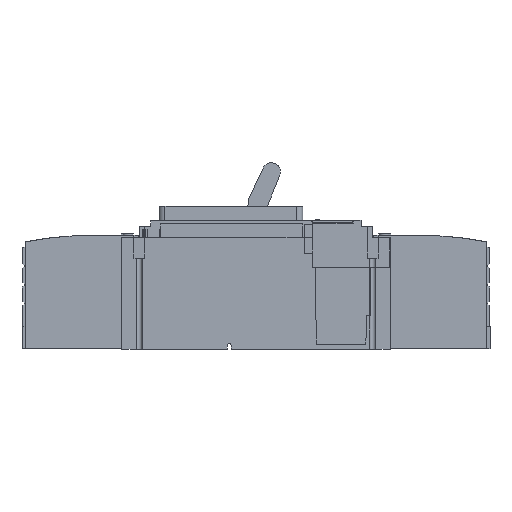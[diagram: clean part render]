
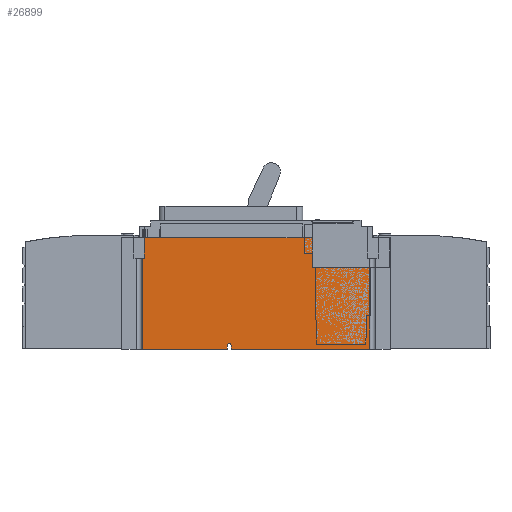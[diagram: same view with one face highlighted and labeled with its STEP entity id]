
A CAD part, left-side view. The second image highlights one B-rep face of the part: STEP entity #26899.
In plain terms, the highlighted planar face has unit normal (-1, 0, 0).
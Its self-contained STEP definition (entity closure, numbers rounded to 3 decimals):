
#86=DIRECTION('',(0.,1.,0.));
#87=VECTOR('',#86,1.954);
#88=CARTESIAN_POINT('',(0.,246.866,-40.707));
#89=LINE('',#88,#87);
#93=DIRECTION('',(0.,0.,1.));
#94=VECTOR('',#93,17.5);
#95=CARTESIAN_POINT('',(0.,246.866,-40.707));
#96=LINE('',#95,#94);
#100=DIRECTION('',(0.,-1.,0.));
#101=VECTOR('',#100,13.5);
#102=CARTESIAN_POINT('',(0.,246.866,-23.207));
#103=LINE('',#102,#101);
#107=DIRECTION('',(0.,0.,1.));
#108=VECTOR('',#107,11.8);
#109=CARTESIAN_POINT('',(0.,233.366,-23.207));
#110=LINE('',#109,#108);
#114=DIRECTION('',(0.,-1.,0.));
#115=VECTOR('',#114,122.);
#116=CARTESIAN_POINT('',(0.,233.366,-11.407));
#117=LINE('',#116,#115);
#121=DIRECTION('',(0.,0.,-1.));
#122=VECTOR('',#121,11.8);
#123=CARTESIAN_POINT('',(0.,111.366,-11.407));
#124=LINE('',#123,#122);
#128=DIRECTION('',(0.,-1.,0.));
#129=VECTOR('',#128,8.);
#130=CARTESIAN_POINT('',(0.,111.366,-23.207));
#131=LINE('',#130,#129);
#135=DIRECTION('',(0.,0.,-1.));
#136=VECTOR('',#135,25.5);
#137=CARTESIAN_POINT('',(0.,103.366,-23.207));
#138=LINE('',#137,#136);
#142=DIRECTION('',(0.,-1.,0.));
#143=VECTOR('',#142,49.454);
#144=CARTESIAN_POINT('',(0.,103.366,-48.707));
#145=LINE('',#144,#143);
#149=DIRECTION('',(0.,0.,-1.));
#150=VECTOR('',#149,70.);
#151=CARTESIAN_POINT('',(0.,53.912,-48.707));
#152=LINE('',#151,#150);
#156=DIRECTION('',(0.,1.,0.));
#157=VECTOR('',#156,118.704);
#158=CARTESIAN_POINT('',(0.,53.912,-118.707));
#159=LINE('',#158,#157);
#163=DIRECTION('',(0.,0.,1.));
#164=VECTOR('',#163,2.918);
#165=CARTESIAN_POINT('',(0.,172.616,-118.707));
#166=LINE('',#165,#164);
#170=DIRECTION('',(0.,0.,-1.));
#171=VECTOR('',#170,2.918);
#172=CARTESIAN_POINT('',(0.,176.116,-115.789));
#173=LINE('',#172,#171);
#177=DIRECTION('',(0.,1.,0.));
#178=VECTOR('',#177,72.704);
#179=CARTESIAN_POINT('',(0.,176.116,-118.707));
#180=LINE('',#179,#178);
#184=DIRECTION('',(0.,0.,-1.));
#185=VECTOR('',#184,78.);
#186=CARTESIAN_POINT('',(0.,248.821,-40.707));
#187=LINE('',#186,#185);
#12195=CARTESIAN_POINT('',(0.,174.366,-115.789));
#12196=DIRECTION('',(1.,0.,0.));
#12197=DIRECTION('',(0.,1.,0.));
#12198=AXIS2_PLACEMENT_3D('',#12195,#12196,#12197);
#22687=CARTESIAN_POINT('',(0.,172.616,-118.707));
#22688=CARTESIAN_POINT('',(0.,172.616,-115.789));
#22689=VERTEX_POINT('',#22687);
#22690=VERTEX_POINT('',#22688);
#22691=CARTESIAN_POINT('',(0.,176.116,-115.789));
#22692=CARTESIAN_POINT('',(0.,176.116,-118.707));
#22693=VERTEX_POINT('',#22691);
#22694=VERTEX_POINT('',#22692);
#22695=CARTESIAN_POINT('',(0.,233.366,-23.207));
#22696=CARTESIAN_POINT('',(0.,233.366,-11.407));
#22697=VERTEX_POINT('',#22695);
#22698=VERTEX_POINT('',#22696);
#22699=CARTESIAN_POINT('',(0.,111.366,-11.407));
#22700=VERTEX_POINT('',#22699);
#22701=CARTESIAN_POINT('',(0.,111.366,-23.207));
#22702=VERTEX_POINT('',#22701);
#22703=CARTESIAN_POINT('',(0.,103.366,-23.207));
#22704=VERTEX_POINT('',#22703);
#22705=CARTESIAN_POINT('',(0.,103.366,-48.707));
#22706=VERTEX_POINT('',#22705);
#22723=CARTESIAN_POINT('',(0.,53.912,-48.707));
#22724=CARTESIAN_POINT('',(0.,53.912,-118.707));
#22725=VERTEX_POINT('',#22723);
#22726=VERTEX_POINT('',#22724);
#22757=CARTESIAN_POINT('',(0.,248.821,
-118.707));
#22758=VERTEX_POINT('',#22757);
#26558=CARTESIAN_POINT('',(0.,246.866,-40.707));
#26559=CARTESIAN_POINT('',(0.,248.821,-40.707));
#26560=VERTEX_POINT('',#26558);
#26561=VERTEX_POINT('',#26559);
#26568=CARTESIAN_POINT('',(0.,246.866,-23.207));
#26569=VERTEX_POINT('',#26568);
#26860=CARTESIAN_POINT('',(0.,0.,0.));
#26861=DIRECTION('',(1.,0.,0.));
#26862=DIRECTION('',(0.,0.,-1.));
#26863=AXIS2_PLACEMENT_3D('',#26860,#26861,#26862);
#26864=PLANE('',#26863);
#26866=ORIENTED_EDGE('',*,*,#26865,.F.);
#26868=ORIENTED_EDGE('',*,*,#26867,.T.);
#26870=ORIENTED_EDGE('',*,*,#26869,.T.);
#26872=ORIENTED_EDGE('',*,*,#26871,.T.);
#26874=ORIENTED_EDGE('',*,*,#26873,.T.);
#26876=ORIENTED_EDGE('',*,*,#26875,.T.);
#26878=ORIENTED_EDGE('',*,*,#26877,.T.);
#26880=ORIENTED_EDGE('',*,*,#26879,.T.);
#26882=ORIENTED_EDGE('',*,*,#26881,.T.);
#26884=ORIENTED_EDGE('',*,*,#26883,.T.);
#26886=ORIENTED_EDGE('',*,*,#26885,.T.);
#26888=ORIENTED_EDGE('',*,*,#26887,.T.);
#26890=ORIENTED_EDGE('',*,*,#26889,.F.);
#26892=ORIENTED_EDGE('',*,*,#26891,.T.);
#26894=ORIENTED_EDGE('',*,*,#26893,.T.);
#26896=ORIENTED_EDGE('',*,*,#26895,.F.);
#26897=EDGE_LOOP('',(#26866,#26868,#26870,#26872,#26874,#26876,#26878,#26880,
#26882,#26884,#26886,#26888,#26890,#26892,#26894,#26896));
#26898=FACE_OUTER_BOUND('',#26897,.F.);
#12199=CIRCLE('',#12198,1.75);
#26865=EDGE_CURVE('',#26560,#26561,#89,.T.);
#26867=EDGE_CURVE('',#26560,#26569,#96,.T.);
#26869=EDGE_CURVE('',#26569,#22697,#103,.T.);
#26871=EDGE_CURVE('',#22697,#22698,#110,.T.);
#26873=EDGE_CURVE('',#22698,#22700,#117,.T.);
#26875=EDGE_CURVE('',#22700,#22702,#124,.T.);
#26877=EDGE_CURVE('',#22702,#22704,#131,.T.);
#26879=EDGE_CURVE('',#22704,#22706,#138,.T.);
#26881=EDGE_CURVE('',#22706,#22725,#145,.T.);
#26883=EDGE_CURVE('',#22725,#22726,#152,.T.);
#26885=EDGE_CURVE('',#22726,#22689,#159,.T.);
#26887=EDGE_CURVE('',#22689,#22690,#166,.T.);
#26889=EDGE_CURVE('',#22693,#22690,#12199,.T.);
#26891=EDGE_CURVE('',#22693,#22694,#173,.T.);
#26893=EDGE_CURVE('',#22694,#22758,#180,.T.);
#26895=EDGE_CURVE('',#26561,#22758,#187,.T.);
#26899=ADVANCED_FACE('',(#26898),#26864,.F.);
